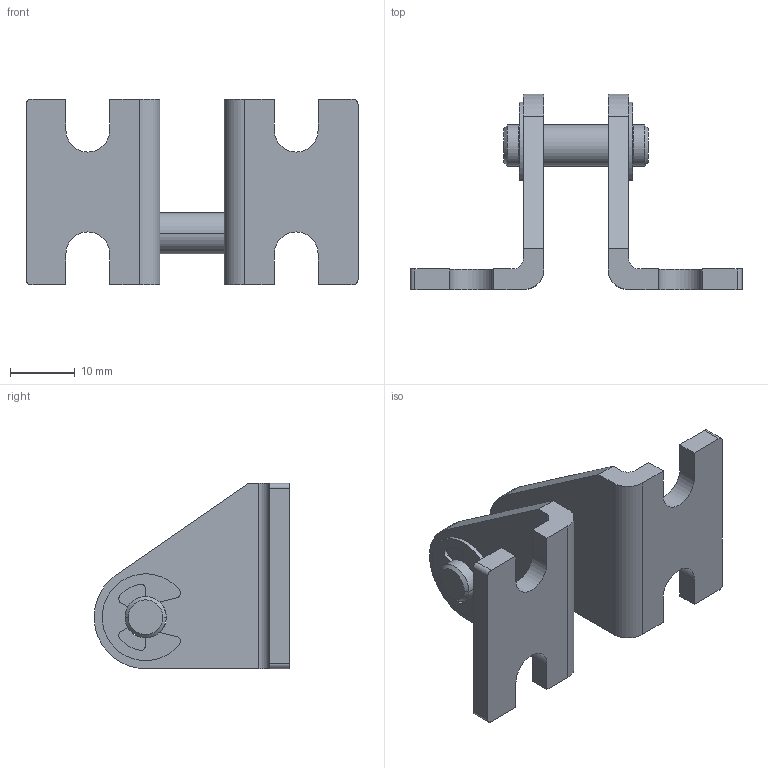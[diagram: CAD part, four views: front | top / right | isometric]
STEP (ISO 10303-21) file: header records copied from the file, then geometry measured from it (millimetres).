
FILE_DESCRIPTION((''),'2;1');
FILE_NAME('M129003_ASM','2018-02-09T',('MeFernandez'),('ASCO Numatics'),'PRO/ENGINEER BY PARAMETRIC TECHNOLOGY CORPORATION, 2015030','PRO/ENGINEER BY PARAMETRIC TECHNOLOGY CORPORATION, 2015030','');
FILE_SCHEMA(('CONFIG_CONTROL_DESIGN'));
Length unit declared in the file: inch
Products named in the file (5): M031004; M029003R; M029003L; M032004; M129003_ASM
Assembly tree (5 placements, depth 2):
  M129003_ASM
    M031004
    M029003R
    M029003L
    M032004  x2
Bounding box: 51.16 x 30.15 x 28.57 mm (x, y, z)
Volume: 7139.9 mm3; surface area: 6015.5 mm2
Topology: 5 solids, 5 shells, 106 faces, 272 edges, 180 vertices
Faces by surface type: cylinder 52, plane 50, cone 4
Entity records: 2769 total; most frequent: DIRECTION 494, CARTESIAN_POINT 458, ORIENTED_EDGE 436, EDGE_CURVE 218, AXIS2_PLACEMENT_3D 180, VERTEX_POINT 144, VECTOR 134, LINE 134
